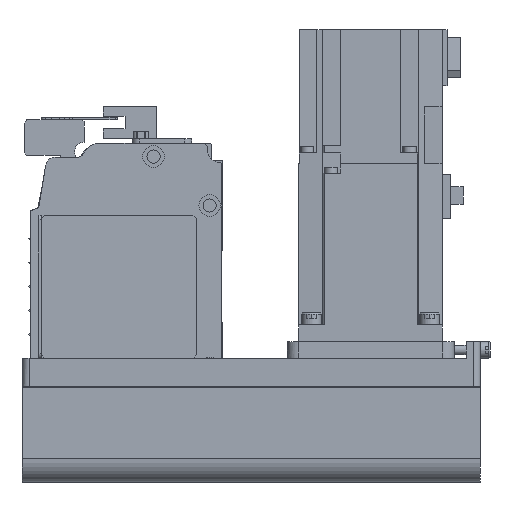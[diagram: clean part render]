
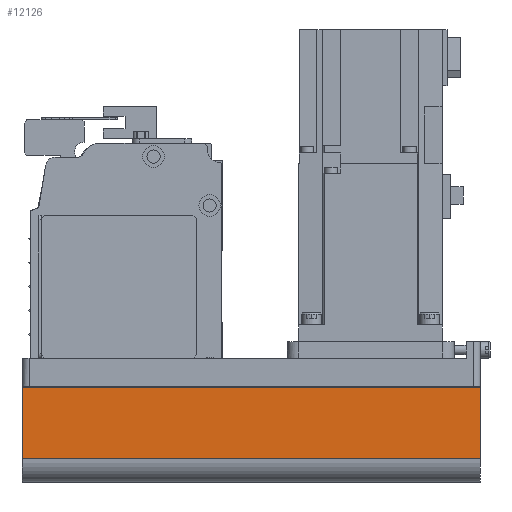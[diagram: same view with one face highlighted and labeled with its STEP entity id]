
A CAD part, left-side view. The second image highlights one B-rep face of the part: STEP entity #12126.
In plain terms, the highlighted planar face has unit normal (-1, 0, 0) as drawn and (0, 1, 0) by its records, which use the part's own axes.
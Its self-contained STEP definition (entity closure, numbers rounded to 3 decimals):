
#2173=ORIENTED_EDGE('',*,*,#4927,.F.);
#2174=ORIENTED_EDGE('',*,*,#4959,.F.);
#2175=ORIENTED_EDGE('',*,*,#4914,.T.);
#2176=ORIENTED_EDGE('',*,*,#4899,.T.);
#4899=EDGE_CURVE('',#6435,#6436,#7657,.T.);
#4914=EDGE_CURVE('',#6447,#6435,#7670,.T.);
#4927=EDGE_CURVE('',#6457,#6436,#7679,.T.);
#4959=EDGE_CURVE('',#6447,#6457,#7691,.T.);
#6435=VERTEX_POINT('',#18869);
#6436=VERTEX_POINT('',#18870);
#6447=VERTEX_POINT('',#18898);
#6457=VERTEX_POINT('',#18925);
#7657=LINE('',#18868,#8885);
#7670=LINE('',#18897,#8898);
#7679=LINE('',#18924,#8907);
#7691=LINE('',#18979,#8919);
#8885=VECTOR('',#15176,1000.);
#8898=VECTOR('',#15197,1000.);
#8907=VECTOR('',#15222,1000.);
#8919=VECTOR('',#15300,1000.);
#9974=EDGE_LOOP('',(#2173,#2174,#2175,#2176));
#10856=FACE_BOUND('',#9974,.T.);
#11571=PLANE('',#13067);
#12126=ADVANCED_FACE('',(#10856),#11571,.T.);
#13067=AXIS2_PLACEMENT_3D('',#18978,#15298,#15299);
#15176=DIRECTION('',(1.,0.,0.));
#15197=DIRECTION('',(0.,0.,1.));
#15222=DIRECTION('',(0.,0.,1.));
#15298=DIRECTION('',(0.,1.,0.));
#15299=DIRECTION('',(0.,0.,1.));
#15300=DIRECTION('',(1.,0.,0.));
#18868=CARTESIAN_POINT('',(-192.,40.,-12.1));
#18869=CARTESIAN_POINT('',(-192.,40.,-12.1));
#18870=CARTESIAN_POINT('',(0.,40.,-12.1));
#18897=CARTESIAN_POINT('',(-192.,40.,-42.));
#18898=CARTESIAN_POINT('',(-192.,40.,-42.));
#18924=CARTESIAN_POINT('',(0.,40.,-42.));
#18925=CARTESIAN_POINT('',(0.,40.,-42.));
#18978=CARTESIAN_POINT('',(-192.,40.,-42.));
#18979=CARTESIAN_POINT('',(-192.,40.,-42.));
